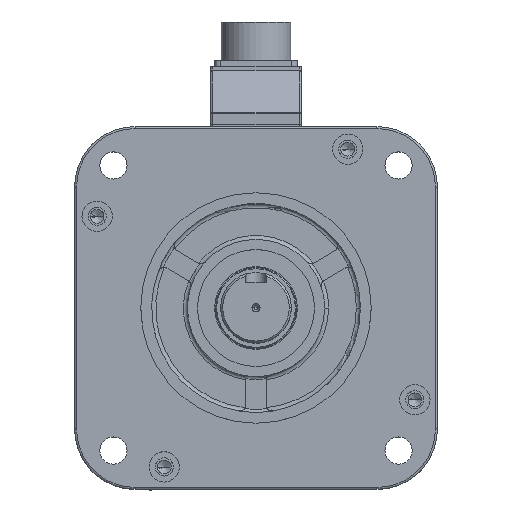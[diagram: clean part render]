
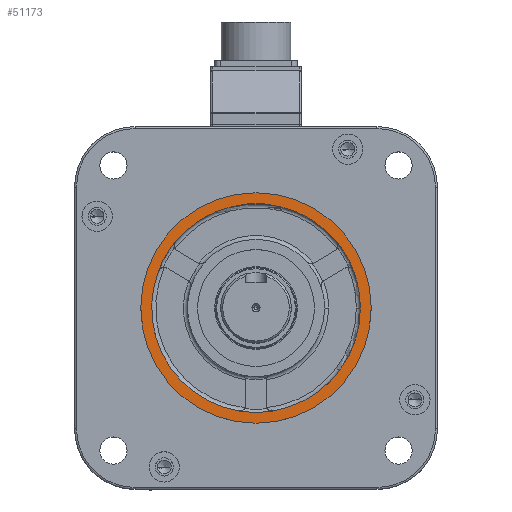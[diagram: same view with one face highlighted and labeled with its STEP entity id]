
A CAD part, top view. The second image highlights one B-rep face of the part: STEP entity #51173.
In plain terms, the highlighted planar face has unit normal (0, 0, 1).
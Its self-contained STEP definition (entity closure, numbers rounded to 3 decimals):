
#75 = CARTESIAN_POINT ( 'NONE',  ( 48.455, 18.17, 21. ) ) ;
#958 = ORIENTED_EDGE ( 'NONE', *, *, #52241, .T. ) ;
#1467 = CARTESIAN_POINT ( 'NONE',  ( 51.75, 0., 21. ) ) ;
#2885 = EDGE_CURVE ( 'NONE', #12894, #16173, #52980, .T. ) ;
#3162 = DIRECTION ( 'NONE',  ( 0., 0., 1. ) ) ;
#3747 = CARTESIAN_POINT ( 'NONE',  ( 0., 0., 21. ) ) ;
#4771 = CARTESIAN_POINT ( 'NONE',  ( -8.492, -51.048, 21. ) ) ;
#4895 = CIRCLE ( 'NONE', #50859, 51.75 ) ;
#5102 = VERTEX_POINT ( 'NONE', #1467 ) ;
#5121 = DIRECTION ( 'NONE',  ( 1., 0., 0. ) ) ;
#5390 = EDGE_CURVE ( 'NONE', #15279, #5102, #15842, .T. ) ;
#6217 = ORIENTED_EDGE ( 'NONE', *, *, #5390, .F. ) ;
#6239 = AXIS2_PLACEMENT_3D ( 'NONE', #36595, #55473, #5121 ) ;
#8374 = EDGE_CURVE ( 'NONE', #9161, #29065, #9936, .T. ) ;
#9161 = VERTEX_POINT ( 'NONE', #59152 ) ;
#9182 = FACE_OUTER_BOUND ( 'NONE', #31556, .T. ) ;
#9376 = ORIENTED_EDGE ( 'NONE', *, *, #39657, .F. ) ;
#9936 = CIRCLE ( 'NONE', #32883, 51.75 ) ;
#10054 = CIRCLE ( 'NONE', #6239, 57.15 ) ;
#10732 = ORIENTED_EDGE ( 'NONE', *, *, #42701, .F. ) ;
#12892 = EDGE_LOOP ( 'NONE', ( #24383, #32309, #6217, #35665, #10732, #9376, #32358 ) ) ;
#12894 = VERTEX_POINT ( 'NONE', #26287 ) ;
#13711 = DIRECTION ( 'NONE',  ( 0., 0., 1. ) ) ;
#13748 = DIRECTION ( 'NONE',  ( 0., 0., 1. ) ) ;
#15279 = VERTEX_POINT ( 'NONE', #34227 ) ;
#15842 = CIRCLE ( 'NONE', #42607, 51.75 ) ;
#16173 = VERTEX_POINT ( 'NONE', #32168 ) ;
#16754 = DIRECTION ( 'NONE',  ( 1., 0., 0. ) ) ;
#17265 = FACE_BOUND ( 'NONE', #12892, .T. ) ;
#17301 = DIRECTION ( 'NONE',  ( 0., 0., 1. ) ) ;
#17650 = AXIS2_PLACEMENT_3D ( 'NONE', #55033, #59212, #45134 ) ;
#18531 = AXIS2_PLACEMENT_3D ( 'NONE', #30118, #39107, #39992 ) ;
#19069 = AXIS2_PLACEMENT_3D ( 'NONE', #58406, #44630, #16754 ) ;
#20138 = CIRCLE ( 'NONE', #26802, 51.75 ) ;
#22561 = AXIS2_PLACEMENT_3D ( 'NONE', #48068, #33978, #25563 ) ;
#22648 = PLANE ( 'NONE',  #17650 ) ;
#23635 = CARTESIAN_POINT ( 'NONE',  ( 0., 0., 21. ) ) ;
#24383 = ORIENTED_EDGE ( 'NONE', *, *, #41173, .F. ) ;
#25563 = DIRECTION ( 'NONE',  ( 1., 0., 0. ) ) ;
#26287 = CARTESIAN_POINT ( 'NONE',  ( -57.15, 0., 21. ) ) ;
#26802 = AXIS2_PLACEMENT_3D ( 'NONE', #3747, #3162, #30417 ) ;
#29065 = VERTEX_POINT ( 'NONE', #48254 ) ;
#30118 = CARTESIAN_POINT ( 'NONE',  ( 0., 0., 21. ) ) ;
#30301 = DIRECTION ( 'NONE',  ( 0., 0., 1. ) ) ;
#30417 = DIRECTION ( 'NONE',  ( 1., 0., 0. ) ) ;
#31556 = EDGE_LOOP ( 'NONE', ( #49034, #958 ) ) ;
#31641 = CIRCLE ( 'NONE', #19069, 51.75 ) ;
#31684 = CARTESIAN_POINT ( 'NONE',  ( 0., 0., 21. ) ) ;
#32168 = CARTESIAN_POINT ( 'NONE',  ( 57.15, 0., 21. ) ) ;
#32309 = ORIENTED_EDGE ( 'NONE', *, *, #58856, .F. ) ;
#32358 = ORIENTED_EDGE ( 'NONE', *, *, #8374, .F. ) ;
#32883 = AXIS2_PLACEMENT_3D ( 'NONE', #23635, #13748, #36215 ) ;
#33861 = CIRCLE ( 'NONE', #48192, 51.75 ) ;
#33978 = DIRECTION ( 'NONE',  ( 0., 0., 1. ) ) ;
#34227 = CARTESIAN_POINT ( 'NONE',  ( 8.492, -51.048, 21. ) ) ;
#35665 = ORIENTED_EDGE ( 'NONE', *, *, #40199, .F. ) ;
#36215 = DIRECTION ( 'NONE',  ( 1., 0., 0. ) ) ;
#36595 = CARTESIAN_POINT ( 'NONE',  ( 0., 0., 21. ) ) ;
#39107 = DIRECTION ( 'NONE',  ( 0., 0., 1. ) ) ;
#39657 = EDGE_CURVE ( 'NONE', #29065, #42573, #20138, .T. ) ;
#39992 = DIRECTION ( 'NONE',  ( 1., 0., 0. ) ) ;
#40199 = EDGE_CURVE ( 'NONE', #57204, #15279, #31641, .T. ) ;
#40668 = DIRECTION ( 'NONE',  ( 1., 0., 0. ) ) ;
#40964 = CARTESIAN_POINT ( 'NONE',  ( 0., 0., 21. ) ) ;
#41173 = EDGE_CURVE ( 'NONE', #46361, #9161, #33861, .T. ) ;
#42573 = VERTEX_POINT ( 'NONE', #50803 ) ;
#42607 = AXIS2_PLACEMENT_3D ( 'NONE', #31684, #13711, #50283 ) ;
#42701 = EDGE_CURVE ( 'NONE', #42573, #57204, #50305, .T. ) ;
#44630 = DIRECTION ( 'NONE',  ( 0., 0., 1. ) ) ;
#45134 = DIRECTION ( 'NONE',  ( 1., 0., 0. ) ) ;
#46361 = VERTEX_POINT ( 'NONE', #75 ) ;
#48068 = CARTESIAN_POINT ( 'NONE',  ( 0., 0., 21. ) ) ;
#48192 = AXIS2_PLACEMENT_3D ( 'NONE', #40964, #17301, #40668 ) ;
#48254 = CARTESIAN_POINT ( 'NONE',  ( -39.963, 32.879, 21. ) ) ;
#48296 = DIRECTION ( 'NONE',  ( 1., 0., 0. ) ) ;
#49034 = ORIENTED_EDGE ( 'NONE', *, *, #2885, .T. ) ;
#50283 = DIRECTION ( 'NONE',  ( 1., 0., 0. ) ) ;
#50305 = CIRCLE ( 'NONE', #22561, 51.75 ) ;
#50803 = CARTESIAN_POINT ( 'NONE',  ( -48.455, 18.17, 21. ) ) ;
#50859 = AXIS2_PLACEMENT_3D ( 'NONE', #53096, #30301, #48296 ) ;
#51173 = ADVANCED_FACE ( 'NONE', ( #17265, #9182 ), #22648, .T. ) ;
#52241 = EDGE_CURVE ( 'NONE', #16173, #12894, #10054, .T. ) ;
#52980 = CIRCLE ( 'NONE', #18531, 57.15 ) ;
#53096 = CARTESIAN_POINT ( 'NONE',  ( 0., 0., 21. ) ) ;
#55033 = CARTESIAN_POINT ( 'NONE',  ( 0., 0., 21. ) ) ;
#55473 = DIRECTION ( 'NONE',  ( 0., 0., 1. ) ) ;
#57204 = VERTEX_POINT ( 'NONE', #4771 ) ;
#58406 = CARTESIAN_POINT ( 'NONE',  ( 0., 0., 21. ) ) ;
#58856 = EDGE_CURVE ( 'NONE', #5102, #46361, #4895, .T. ) ;
#59152 = CARTESIAN_POINT ( 'NONE',  ( 39.963, 32.879, 21. ) ) ;
#59212 = DIRECTION ( 'NONE',  ( 0., 0., 1. ) ) ;
